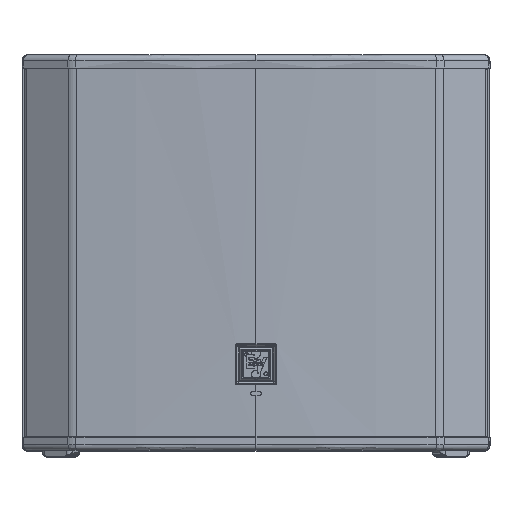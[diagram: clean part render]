
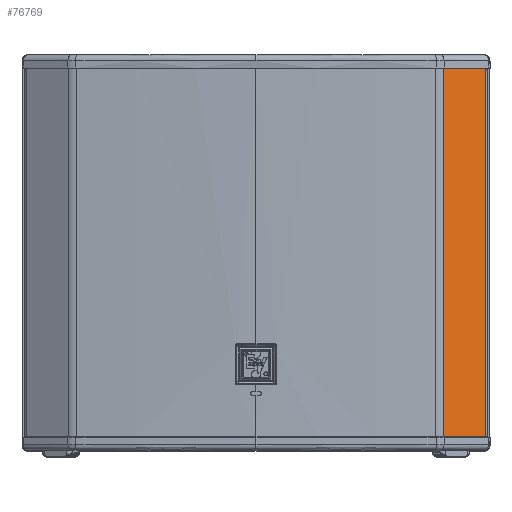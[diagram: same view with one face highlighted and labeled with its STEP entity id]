
A CAD part, top view. The second image highlights one B-rep face of the part: STEP entity #76769.
In plain terms, the highlighted planar face has unit normal (0.53, 0, 0.848).
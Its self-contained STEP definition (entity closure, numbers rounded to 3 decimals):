
#1931 = LINE ( 'NONE', #46519, #37474 ) ;
#2406 = VERTEX_POINT ( 'NONE', #13467 ) ;
#6981 = VECTOR ( 'NONE', #17385, 1000. ) ;
#8497 = FACE_OUTER_BOUND ( 'NONE', #48468, .T. ) ;
#11540 = CARTESIAN_POINT ( 'NONE',  ( 260.553, 208.09, 48.053 ) ) ;
#13467 = CARTESIAN_POINT ( 'NONE',  ( 212.626, -208.09, 78.001 ) ) ;
#17385 = DIRECTION ( 'NONE',  ( 0.848, 0., -0.53 ) ) ;
#19086 = CARTESIAN_POINT ( 'NONE',  ( 212.626, -208.09, 78.001 ) ) ;
#20506 = EDGE_CURVE ( 'NONE', #51551, #75278, #1931, .T. ) ;
#21284 = EDGE_CURVE ( 'NONE', #2406, #51551, #24752, .T. ) ;
#22432 = ORIENTED_EDGE ( 'NONE', *, *, #20506, .T. ) ;
#23027 = CARTESIAN_POINT ( 'NONE',  ( 212.626, 208.09, 78.001 ) ) ;
#24752 = LINE ( 'NONE', #19086, #6981 ) ;
#29011 = VECTOR ( 'NONE', #36177, 1000. ) ;
#29531 = VERTEX_POINT ( 'NONE', #30462 ) ;
#30191 = ORIENTED_EDGE ( 'NONE', *, *, #21284, .T. ) ;
#30462 = CARTESIAN_POINT ( 'NONE',  ( 212.626, 208.09, 78.001 ) ) ;
#31120 = LINE ( 'NONE', #23027, #29011 ) ;
#36177 = DIRECTION ( 'NONE',  ( -0.848, 0., 0.53 ) ) ;
#36488 = DIRECTION ( 'NONE',  ( 0.53, 0., 0.848 ) ) ;
#37474 = VECTOR ( 'NONE', #46437, 1000. ) ;
#42921 = PLANE ( 'NONE',  #52555 ) ;
#46437 = DIRECTION ( 'NONE',  ( 0., 1., 0. ) ) ;
#46499 = LINE ( 'NONE', #72057, #63988 ) ;
#46519 = CARTESIAN_POINT ( 'NONE',  ( 260.553, -208.09, 48.053 ) ) ;
#48468 = EDGE_LOOP ( 'NONE', ( #30191, #22432, #80927, #75961 ) ) ;
#48892 = CARTESIAN_POINT ( 'NONE',  ( 260.553, -208.09, 48.053 ) ) ;
#51551 = VERTEX_POINT ( 'NONE', #48892 ) ;
#52555 = AXIS2_PLACEMENT_3D ( 'NONE', #75510, #36488, #81218 ) ;
#63988 = VECTOR ( 'NONE', #83714, 1000. ) ;
#72057 = CARTESIAN_POINT ( 'NONE',  ( 212.626, -416.285, 78.001 ) ) ;
#75278 = VERTEX_POINT ( 'NONE', #11540 ) ;
#75510 = CARTESIAN_POINT ( 'NONE',  ( 212.626, -208.09, 78.001 ) ) ;
#75961 = ORIENTED_EDGE ( 'NONE', *, *, #78826, .F. ) ;
#76769 = ADVANCED_FACE ( 'NONE', ( #8497 ), #42921, .T. ) ;
#78826 = EDGE_CURVE ( 'NONE', #2406, #29531, #46499, .T. ) ;
#80927 = ORIENTED_EDGE ( 'NONE', *, *, #81054, .T. ) ;
#81054 = EDGE_CURVE ( 'NONE', #75278, #29531, #31120, .T. ) ;
#81218 = DIRECTION ( 'NONE',  ( 0.848, 0., -0.53 ) ) ;
#83714 = DIRECTION ( 'NONE',  ( 0., 1., 0. ) ) ;
